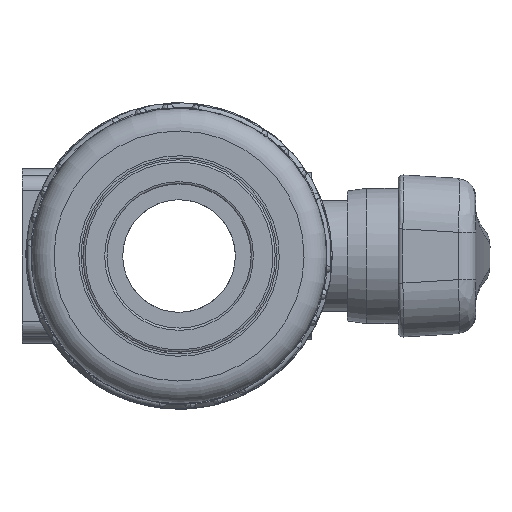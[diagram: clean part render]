
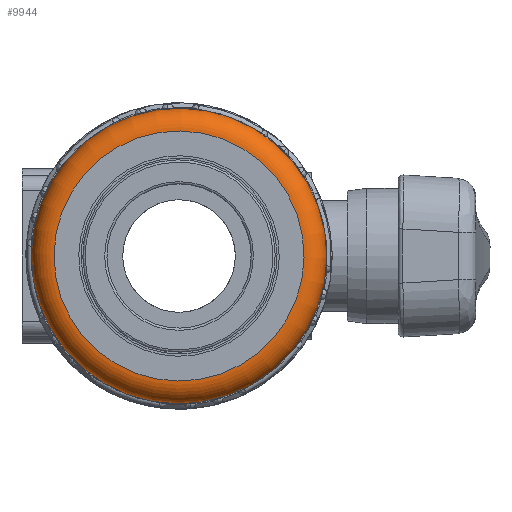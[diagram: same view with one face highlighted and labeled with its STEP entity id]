
A CAD part, front view. The second image highlights one B-rep face of the part: STEP entity #9944.
In plain terms, the highlighted toroidal (fillet/blend) face has major radius 27.75 mm and minor radius 5 mm.
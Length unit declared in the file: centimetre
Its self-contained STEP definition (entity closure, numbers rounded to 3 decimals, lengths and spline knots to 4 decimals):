
#59=TOROIDAL_SURFACE('',#10639,2.775,0.5);
#1907=FACE_BOUND('',#2787,.T.);
#2193=FACE_OUTER_BOUND('',#2786,.T.);
#2786=EDGE_LOOP('',(#7051));
#2787=EDGE_LOOP('',(#7052));
#3437=CIRCLE('',#10637,2.775);
#3439=CIRCLE('',#10640,3.275);
#4081=VERTEX_POINT('',#37255);
#4083=VERTEX_POINT('',#37260);
#5202=EDGE_CURVE('',#4081,#4081,#3437,.T.);
#5204=EDGE_CURVE('',#4083,#4083,#3439,.T.);
#7051=ORIENTED_EDGE('',*,*,#5204,.F.);
#7052=ORIENTED_EDGE('',*,*,#5202,.T.);
#9944=ADVANCED_FACE('',(#2193,#1907),#59,.T.);
#10637=AXIS2_PLACEMENT_3D('',#37256,#12088,#12089);
#10639=AXIS2_PLACEMENT_3D('',#37259,#12092,#12093);
#10640=AXIS2_PLACEMENT_3D('',#37261,#12094,#12095);
#12088=DIRECTION('center_axis',(0.,1.,0.));
#12089=DIRECTION('ref_axis',(-0.354,0.,-0.935));
#12092=DIRECTION('center_axis',(0.,1.,0.));
#12093=DIRECTION('ref_axis',(0.935,0.,-0.354));
#12094=DIRECTION('center_axis',(0.,1.,0.));
#12095=DIRECTION('ref_axis',(-0.354,0.,-0.935));
#37255=CARTESIAN_POINT('',(0.9822,-4.005,2.5954));
#37256=CARTESIAN_POINT('Origin',(0.,-4.005,0.));
#37259=CARTESIAN_POINT('Origin',(0.,-3.505,0.));
#37260=CARTESIAN_POINT('',(1.1592,-3.505,3.063));
#37261=CARTESIAN_POINT('Origin',(0.,-3.505,0.));
